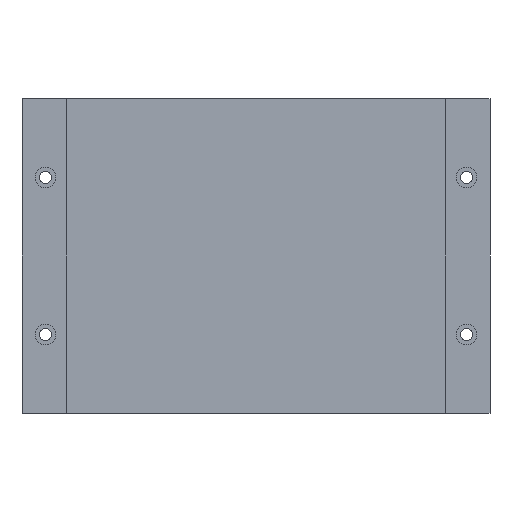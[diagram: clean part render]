
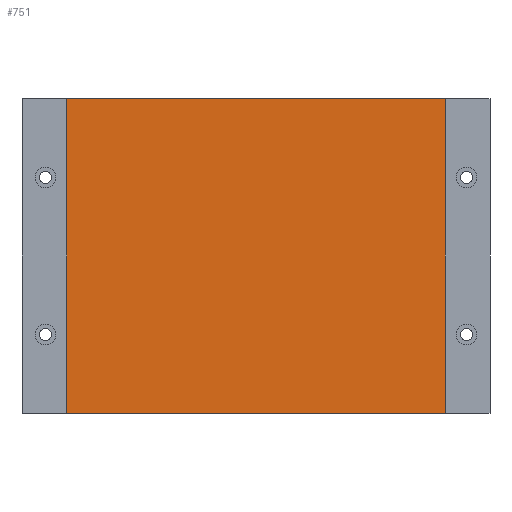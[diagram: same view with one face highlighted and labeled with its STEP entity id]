
A CAD part, left-side view. The second image highlights one B-rep face of the part: STEP entity #751.
In plain terms, the highlighted planar face has unit normal (-1, 0, 0).
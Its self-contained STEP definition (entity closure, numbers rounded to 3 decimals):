
#27 = AXIS2_PLACEMENT_3D ( 'NONE', #612, #672, #524 ) ;
#53 = ORIENTED_EDGE ( 'NONE', *, *, #357, .T. ) ;
#65 = LINE ( 'NONE', #465, #605 ) ;
#138 = ORIENTED_EDGE ( 'NONE', *, *, #831, .T. ) ;
#174 = FACE_OUTER_BOUND ( 'NONE', #633, .T. ) ;
#298 = VERTEX_POINT ( 'NONE', #901 ) ;
#339 = ORIENTED_EDGE ( 'NONE', *, *, #652, .F. ) ;
#357 = EDGE_CURVE ( 'NONE', #654, #761, #417, .T. ) ;
#378 = VECTOR ( 'NONE', #434, 1000. ) ;
#380 = CARTESIAN_POINT ( 'NONE',  ( -7.8, 101.15, 0. ) ) ;
#405 = LINE ( 'NONE', #456, #813 ) ;
#417 = LINE ( 'NONE', #561, #439 ) ;
#434 = DIRECTION ( 'NONE',  ( 0., 0., -1. ) ) ;
#439 = VECTOR ( 'NONE', #836, 1000. ) ;
#444 = CARTESIAN_POINT ( 'NONE',  ( -7.8, -101.15, 168. ) ) ;
#456 = CARTESIAN_POINT ( 'NONE',  ( -7.8, 0., 0. ) ) ;
#465 = CARTESIAN_POINT ( 'NONE',  ( -7.8, 0., 168. ) ) ;
#505 = ORIENTED_EDGE ( 'NONE', *, *, #708, .F. ) ;
#514 = CARTESIAN_POINT ( 'NONE',  ( -7.8, 101.15, 168. ) ) ;
#524 = DIRECTION ( 'NONE',  ( 0., 0., 1. ) ) ;
#561 = CARTESIAN_POINT ( 'NONE',  ( -7.8, 101.15, 168. ) ) ;
#600 = DIRECTION ( 'NONE',  ( 0., 1., 0. ) ) ;
#605 = VECTOR ( 'NONE', #689, 1000. ) ;
#612 = CARTESIAN_POINT ( 'NONE',  ( -7.8, 0., 168. ) ) ;
#633 = EDGE_LOOP ( 'NONE', ( #505, #339, #138, #53 ) ) ;
#652 = EDGE_CURVE ( 'NONE', #298, #933, #938, .T. ) ;
#654 = VERTEX_POINT ( 'NONE', #514 ) ;
#672 = DIRECTION ( 'NONE',  ( -1., 0., 0. ) ) ;
#689 = DIRECTION ( 'NONE',  ( 0., 1., 0. ) ) ;
#708 = EDGE_CURVE ( 'NONE', #933, #761, #405, .T. ) ;
#751 = ADVANCED_FACE ( 'NONE', ( #174 ), #755, .T. ) ;
#755 = PLANE ( 'NONE',  #27 ) ;
#761 = VERTEX_POINT ( 'NONE', #380 ) ;
#813 = VECTOR ( 'NONE', #600, 1000. ) ;
#831 = EDGE_CURVE ( 'NONE', #298, #654, #65, .T. ) ;
#836 = DIRECTION ( 'NONE',  ( 0., 0., -1. ) ) ;
#901 = CARTESIAN_POINT ( 'NONE',  ( -7.8, -101.15, 168. ) ) ;
#903 = CARTESIAN_POINT ( 'NONE',  ( -7.8, -101.15, 0. ) ) ;
#933 = VERTEX_POINT ( 'NONE', #903 ) ;
#938 = LINE ( 'NONE', #444, #378 ) ;
